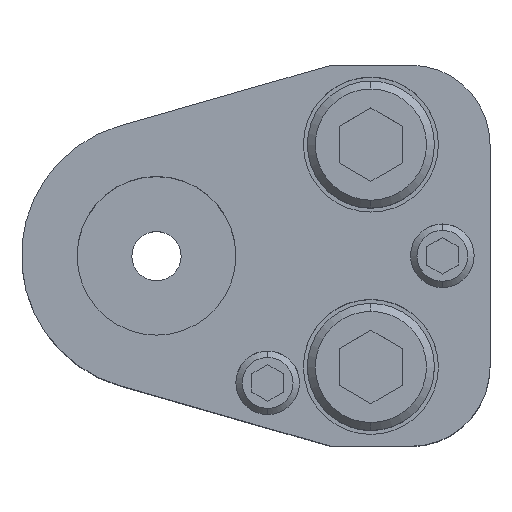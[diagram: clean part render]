
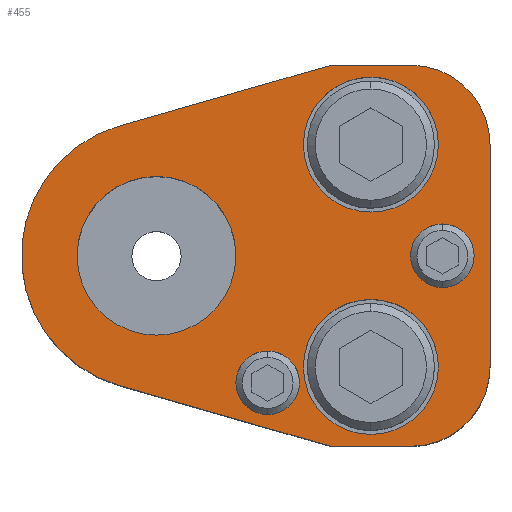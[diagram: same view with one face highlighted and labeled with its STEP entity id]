
A CAD part, top view. The second image highlights one B-rep face of the part: STEP entity #455.
In plain terms, the highlighted planar face has unit normal (0, 0, 1).
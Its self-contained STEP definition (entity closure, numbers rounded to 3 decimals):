
#211=FACE_BOUND('',#817,.T.);
#212=FACE_BOUND('',#818,.T.);
#213=FACE_BOUND('',#819,.T.);
#214=FACE_BOUND('',#820,.T.);
#215=FACE_BOUND('',#821,.T.);
#216=FACE_BOUND('',#822,.T.);
#274=CIRCLE('',#2649,10.);
#276=CIRCLE('',#2653,10.);
#278=CIRCLE('',#2658,17.);
#287=CIRCLE('',#2672,8.5);
#289=CIRCLE('',#2675,8.5);
#291=CIRCLE('',#2679,8.5);
#293=CIRCLE('',#2682,8.5);
#295=CIRCLE('',#2686,4.);
#296=CIRCLE('',#2687,4.);
#297=CIRCLE('',#2688,4.);
#298=CIRCLE('',#2689,4.);
#299=CIRCLE('',#2690,10.);
#300=CIRCLE('',#2691,10.);
#455=ADVANCED_FACE('',(#211,#212,#213,#214,#215,#216),#587,.T.);
#587=PLANE('',#2692);
#817=EDGE_LOOP('',(#1155,#1156,#1157,#1158,#1159,#1160,#1161,#1162));
#818=EDGE_LOOP('',(#1163,#1164));
#819=EDGE_LOOP('',(#1165,#1166));
#820=EDGE_LOOP('',(#1167,#1168));
#821=EDGE_LOOP('',(#1169,#1170));
#822=EDGE_LOOP('',(#1171,#1172));
#1155=ORIENTED_EDGE('',*,*,#1935,.T.);
#1156=ORIENTED_EDGE('',*,*,#1956,.T.);
#1157=ORIENTED_EDGE('',*,*,#1953,.T.);
#1158=ORIENTED_EDGE('',*,*,#1950,.T.);
#1159=ORIENTED_EDGE('',*,*,#1947,.T.);
#1160=ORIENTED_EDGE('',*,*,#1944,.T.);
#1161=ORIENTED_EDGE('',*,*,#1941,.T.);
#1162=ORIENTED_EDGE('',*,*,#1938,.T.);
#1163=ORIENTED_EDGE('',*,*,#1981,.F.);
#1164=ORIENTED_EDGE('',*,*,#1982,.F.);
#1165=ORIENTED_EDGE('',*,*,#1983,.F.);
#1166=ORIENTED_EDGE('',*,*,#1984,.F.);
#1167=ORIENTED_EDGE('',*,*,#1979,.F.);
#1168=ORIENTED_EDGE('',*,*,#1975,.F.);
#1169=ORIENTED_EDGE('',*,*,#1973,.F.);
#1170=ORIENTED_EDGE('',*,*,#1969,.F.);
#1171=ORIENTED_EDGE('',*,*,#1985,.T.);
#1172=ORIENTED_EDGE('',*,*,#1986,.T.);
#1689=VERTEX_POINT('',#3848);
#1690=VERTEX_POINT('',#3850);
#1692=VERTEX_POINT('',#3856);
#1694=VERTEX_POINT('',#3862);
#1696=VERTEX_POINT('',#3868);
#1698=VERTEX_POINT('',#3874);
#1700=VERTEX_POINT('',#3880);
#1702=VERTEX_POINT('',#3886);
#1711=VERTEX_POINT('',#3917);
#1712=VERTEX_POINT('',#3918);
#1715=VERTEX_POINT('',#3930);
#1716=VERTEX_POINT('',#3931);
#1719=VERTEX_POINT('',#3943);
#1720=VERTEX_POINT('',#3944);
#1721=VERTEX_POINT('',#3947);
#1722=VERTEX_POINT('',#3948);
#1723=VERTEX_POINT('',#3951);
#1724=VERTEX_POINT('',#3952);
#1935=EDGE_CURVE('',#1690,#1689,#2265,.T.);
#1938=EDGE_CURVE('',#1692,#1690,#2268,.T.);
#1941=EDGE_CURVE('',#1694,#1692,#274,.T.);
#1944=EDGE_CURVE('',#1696,#1694,#2272,.T.);
#1947=EDGE_CURVE('',#1698,#1696,#276,.T.);
#1950=EDGE_CURVE('',#1700,#1698,#2276,.T.);
#1953=EDGE_CURVE('',#1702,#1700,#2279,.T.);
#1956=EDGE_CURVE('',#1689,#1702,#278,.T.);
#1969=EDGE_CURVE('',#1711,#1712,#287,.T.);
#1973=EDGE_CURVE('',#1712,#1711,#289,.T.);
#1975=EDGE_CURVE('',#1715,#1716,#291,.T.);
#1979=EDGE_CURVE('',#1716,#1715,#293,.T.);
#1981=EDGE_CURVE('',#1719,#1720,#295,.T.);
#1982=EDGE_CURVE('',#1720,#1719,#296,.T.);
#1983=EDGE_CURVE('',#1721,#1722,#297,.T.);
#1984=EDGE_CURVE('',#1722,#1721,#298,.T.);
#1985=EDGE_CURVE('',#1723,#1724,#299,.T.);
#1986=EDGE_CURVE('',#1724,#1723,#300,.T.);
#2265=LINE('',#3849,#2457);
#2268=LINE('',#3855,#2460);
#2272=LINE('',#3867,#2464);
#2276=LINE('',#3879,#2468);
#2279=LINE('',#3885,#2471);
#2457=VECTOR('',#3049,1.);
#2460=VECTOR('',#3054,1.);
#2464=VECTOR('',#3066,1.);
#2468=VECTOR('',#3078,1.);
#2471=VECTOR('',#3083,1.);
#2649=AXIS2_PLACEMENT_3D('',#3861,#3060,#3061);
#2653=AXIS2_PLACEMENT_3D('',#3873,#3072,#3073);
#2658=AXIS2_PLACEMENT_3D('',#3890,#3089,#3090);
#2672=AXIS2_PLACEMENT_3D('',#3916,#3121,#3122);
#2675=AXIS2_PLACEMENT_3D('',#3925,#3129,#3130);
#2679=AXIS2_PLACEMENT_3D('',#3929,#3137,#3138);
#2682=AXIS2_PLACEMENT_3D('',#3938,#3145,#3146);
#2686=AXIS2_PLACEMENT_3D('',#3942,#3153,#3154);
#2687=AXIS2_PLACEMENT_3D('',#3945,#3155,#3156);
#2688=AXIS2_PLACEMENT_3D('',#3946,#3157,#3158);
#2689=AXIS2_PLACEMENT_3D('',#3949,#3159,#3160);
#2690=AXIS2_PLACEMENT_3D('',#3950,#3161,#3162);
#2691=AXIS2_PLACEMENT_3D('',#3953,#3163,#3164);
#2692=AXIS2_PLACEMENT_3D('',#3954,#3165,#3166);
#3049=DIRECTION('',(-0.961,-0.276,0.));
#3054=DIRECTION('',(-1.,0.,0.));
#3060=DIRECTION('',(0.,0.,1.));
#3061=DIRECTION('',(-0.707,-0.707,0.));
#3066=DIRECTION('',(0.,1.,0.));
#3072=DIRECTION('',(0.,0.,1.));
#3073=DIRECTION('',(-0.707,0.707,0.));
#3078=DIRECTION('',(1.,0.,0.));
#3083=DIRECTION('',(0.961,-0.276,0.));
#3089=DIRECTION('',(0.,0.,1.));
#3090=DIRECTION('',(1.,0.,0.));
#3121=DIRECTION('',(0.,0.,1.));
#3122=DIRECTION('',(-1.,0.,0.));
#3129=DIRECTION('',(0.,0.,1.));
#3130=DIRECTION('',(1.,0.,0.));
#3137=DIRECTION('',(0.,0.,1.));
#3138=DIRECTION('',(-1.,0.,0.));
#3145=DIRECTION('',(0.,0.,1.));
#3146=DIRECTION('',(1.,0.,0.));
#3153=DIRECTION('',(0.,0.,1.));
#3154=DIRECTION('',(1.,0.,0.));
#3155=DIRECTION('',(0.,0.,1.));
#3156=DIRECTION('',(-1.,0.,0.));
#3157=DIRECTION('',(0.,0.,1.));
#3158=DIRECTION('',(1.,0.,0.));
#3159=DIRECTION('',(0.,0.,1.));
#3160=DIRECTION('',(-1.,0.,0.));
#3161=DIRECTION('',(0.,0.,-1.));
#3162=DIRECTION('',(-1.,0.,0.));
#3163=DIRECTION('',(0.,0.,-1.));
#3164=DIRECTION('',(1.,0.,0.));
#3165=DIRECTION('',(0.,0.,1.));
#3166=DIRECTION('',(1.,0.,0.));
#3848=CARTESIAN_POINT('',(-4.69,16.34,35.));
#3849=CARTESIAN_POINT('',(22.,24.,35.));
#3850=CARTESIAN_POINT('',(22.,24.,35.));
#3855=CARTESIAN_POINT('',(32.,24.,35.));
#3856=CARTESIAN_POINT('',(32.,24.,35.));
#3861=CARTESIAN_POINT('',(32.,14.,35.));
#3862=CARTESIAN_POINT('',(42.,14.,35.));
#3867=CARTESIAN_POINT('',(42.,14.,35.));
#3868=CARTESIAN_POINT('',(42.,-14.,35.));
#3873=CARTESIAN_POINT('',(32.,-14.,35.));
#3874=CARTESIAN_POINT('',(32.,-24.,35.));
#3879=CARTESIAN_POINT('',(32.,-24.,35.));
#3880=CARTESIAN_POINT('',(22.,-24.,35.));
#3885=CARTESIAN_POINT('',(22.,-24.,35.));
#3886=CARTESIAN_POINT('',(-4.69,-16.34,35.));
#3890=CARTESIAN_POINT('',(0.,0.,35.));
#3916=CARTESIAN_POINT('',(27.,14.,35.));
#3917=CARTESIAN_POINT('',(27.,5.5,35.));
#3918=CARTESIAN_POINT('',(27.,22.5,35.));
#3925=CARTESIAN_POINT('',(27.,14.,35.));
#3929=CARTESIAN_POINT('',(27.,-14.,35.));
#3930=CARTESIAN_POINT('',(27.,-22.5,35.));
#3931=CARTESIAN_POINT('',(27.,-5.5,35.));
#3938=CARTESIAN_POINT('',(27.,-14.,35.));
#3942=CARTESIAN_POINT('',(14.,-16.,35.));
#3943=CARTESIAN_POINT('',(14.,-12.,35.));
#3944=CARTESIAN_POINT('',(14.,-20.,35.));
#3945=CARTESIAN_POINT('',(14.,-16.,35.));
#3946=CARTESIAN_POINT('',(36.,0.,35.));
#3947=CARTESIAN_POINT('',(36.,4.,35.));
#3948=CARTESIAN_POINT('',(36.,-4.,35.));
#3949=CARTESIAN_POINT('',(36.,0.,35.));
#3950=CARTESIAN_POINT('',(0.,0.,35.));
#3951=CARTESIAN_POINT('',(0.,10.,35.));
#3952=CARTESIAN_POINT('',(0.,-10.,35.));
#3953=CARTESIAN_POINT('',(0.,0.,35.));
#3954=CARTESIAN_POINT('',(22.,24.,35.));
